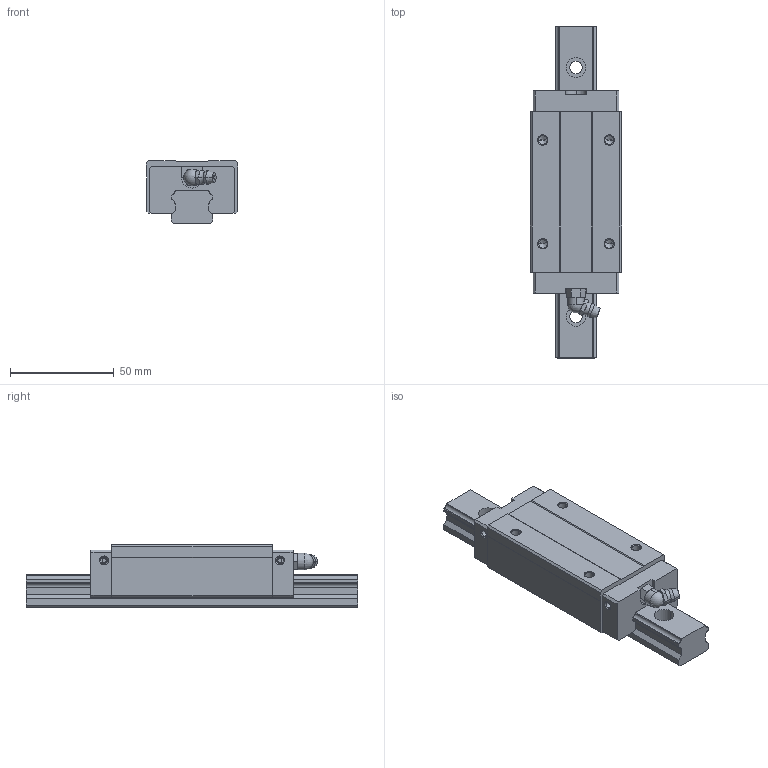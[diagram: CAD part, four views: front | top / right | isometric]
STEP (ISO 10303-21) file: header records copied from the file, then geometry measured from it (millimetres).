
FILE_DESCRIPTION((''),'1');
FILE_NAME(' ',' ',(''),(''),'ACIS Interop R16','Kubotek KeyCreator V6.5.2 (0407)',' ');
FILE_SCHEMA(('CONFIG_CONTROL_DESIGN'));
Length unit declared in the file: millimetre
Products named in the file (3): 1; 2; 3
Bounding box: 44 x 160 x 30 mm (x, y, z)
Volume: 127987.7 mm3; surface area: 31469.5 mm2
Topology: 3 solids, 3 shells, 205 faces, 531 edges, 341 vertices
Faces by surface type: plane 98, cylinder 66, cone 26, torus 10, sphere 3, bspline 2
Entity records: 6508 total; most frequent: CARTESIAN_POINT 1268, DIRECTION 1106, ORIENTED_EDGE 1042, EDGE_CURVE 521, AXIS2_PLACEMENT_3D 399, VERTEX_POINT 341, LINE 308, VECTOR 308
